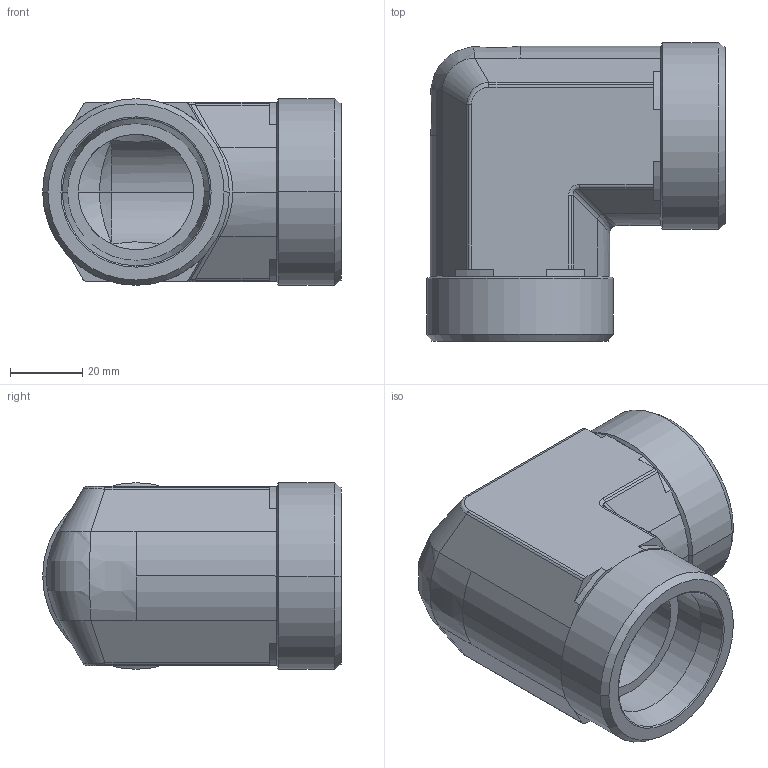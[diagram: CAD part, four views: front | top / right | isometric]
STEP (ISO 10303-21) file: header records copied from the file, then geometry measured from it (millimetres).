
FILE_DESCRIPTION((''),'2;1');
FILE_NAME('103823.stp','2007-10-31T11:51:26',(''),(''),'AutoCAD STEP 2000i','AutoCAD 2000i',', , ');
FILE_SCHEMA(('CONFIG_CONTROL_DESIGN'));
Length unit declared in the file: millimetre
Products named in the file (2): 103823.0; 3090#0
Assembly tree (1 placements, depth 2):
  103823.0
    3090#0
Bounding box: 82.91 x 82.91 x 51.82 mm (x, y, z)
Volume: 133290.7 mm3; surface area: 32964.9 mm2
Topology: 1 solids, 1 shells, 120 faces, 282 edges, 166 vertices
Faces by surface type: cylinder 52, plane 34, cone 20, bspline 14
Entity records: 4416 total; most frequent: CARTESIAN_POINT 1537, DIRECTION 621, ORIENTED_EDGE 564, EDGE_CURVE 282, AXIS2_PLACEMENT_3D 250, VERTEX_POINT 166, CIRCLE 124, EDGE_LOOP 124
